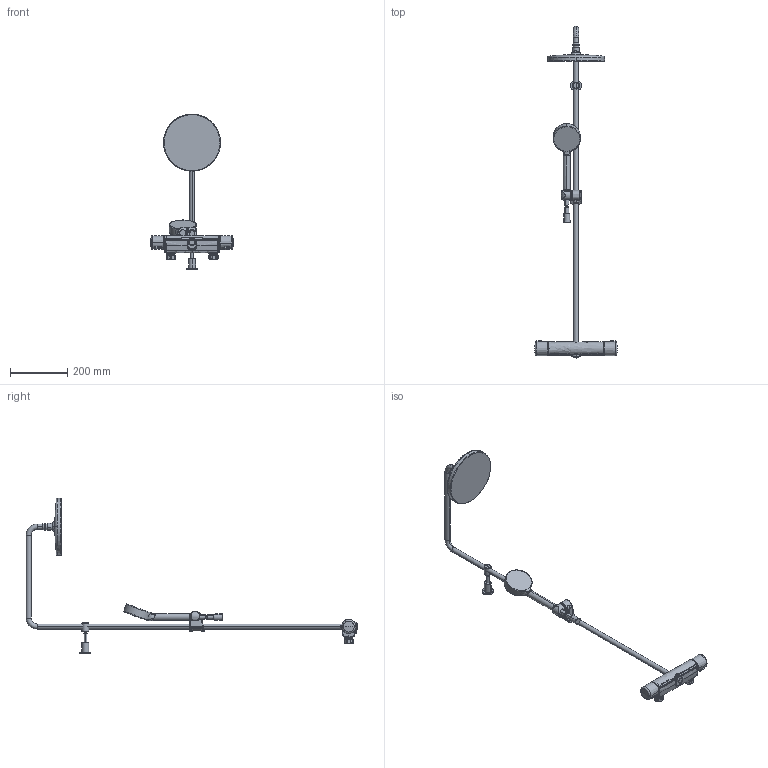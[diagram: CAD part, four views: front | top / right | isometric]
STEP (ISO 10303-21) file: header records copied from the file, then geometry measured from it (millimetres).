
FILE_DESCRIPTION (( 'STEP AP203' ), '1' );
FILE_NAME ('7402-107(2022)+7402-109(2022).STEP', '2022-02-25T06:11:48', ( '' ), ( '' ), 'SwSTEP 2.0', 'SolidWorks 2016', '' );
FILE_SCHEMA (( 'CONFIG_CONTROL_DESIGN' ));
Products named in the file (1): 7402-107(2022)+7402-109(2022)
Bounding box: 289.92 x 1162.4 x 545.7 mm (x, y, z)
Volume: 1813433.2 mm3; surface area: 355540.9 mm2
Topology: 22 solids, 22 shells, 839 faces, 1973 edges, 1182 vertices
Faces by surface type: bspline 320, cylinder 203, plane 115, torus 94, cone 69, sphere 38
Entity records: 61346 total; most frequent: CARTESIAN_POINT 44975, ORIENTED_EDGE 3910, DIRECTION 2709, EDGE_CURVE 1955, AXIS2_PLACEMENT_3D 1199, VERTEX_POINT 1180, EDGE_LOOP 861, FACE_OUTER_BOUND 839
